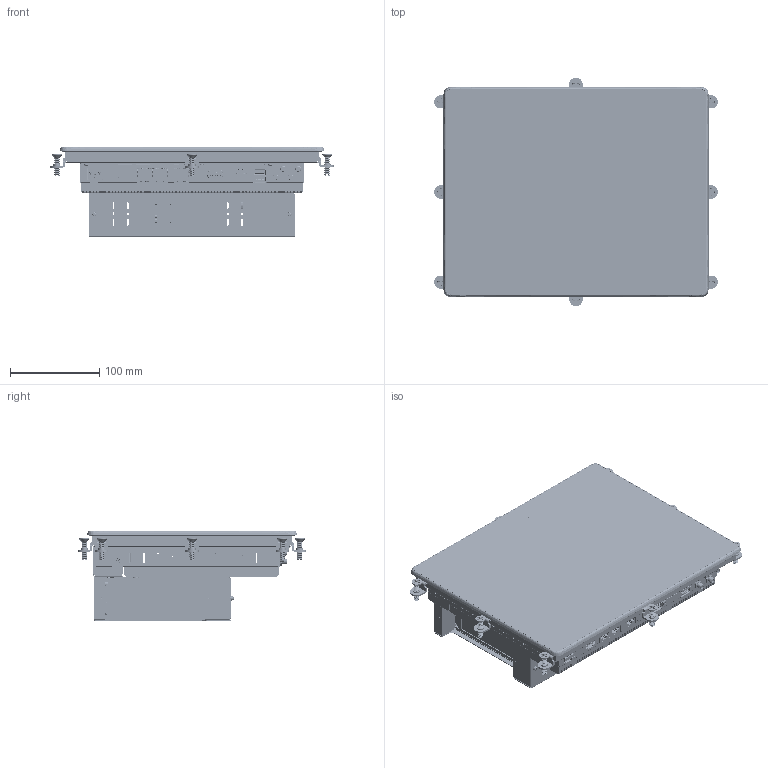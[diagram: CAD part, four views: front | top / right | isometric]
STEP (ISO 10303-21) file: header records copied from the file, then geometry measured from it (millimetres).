
FILE_DESCRIPTION((''),'2;1');
FILE_NAME('NP6A-121-Z','2026-06-02T11:09:30',('gijyu181'),(''),'CREO PARAMETRIC BY PTC INC, 2018050','CREO PARAMETRIC BY PTC INC, 2018050','');
FILE_SCHEMA(('CONFIG_CONTROL_DESIGN','SHAPE_APPEARANCE_LAYERS_GROUPS'));
Products named in the file (1): NP6A-121-Z
Bounding box: 317.6 x 256.1 x 100.55 mm (x, y, z)
Volume: 1426291.4 mm3; surface area: 1169282.8 mm2
Topology: 17 solids, 119 shells, 38566 faces, 113147 edges, 74749 vertices
Faces by surface type: plane 26180, cylinder 9565, extrusion 1476, cone 593, bspline 400, torus 222, sphere 126, revolution 4
Entity records: 1515601 total; most frequent: CARTESIAN_POINT 318576, ORIENTED_EDGE 225343, DIRECTION 201556, EDGE_CURVE 113087, VECTOR 88788, LINE 87312, VERTEX_POINT 74750, AXIS2_PLACEMENT_3D 56382
